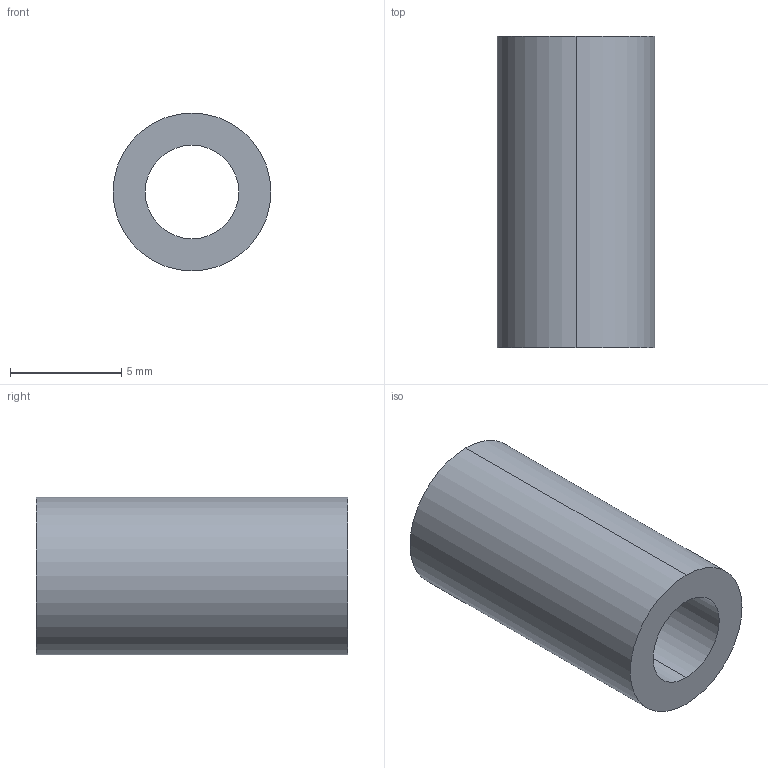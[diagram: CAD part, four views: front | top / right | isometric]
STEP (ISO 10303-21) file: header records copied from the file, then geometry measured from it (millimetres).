
FILE_DESCRIPTION(/* description */ ('(C) Elphel, Inc. 2013. Licensed under CERN OHL v.1.1 or later, see http://ohwr.org/cernohl'),/* implementation_level */ '2;1');
FILE_NAME(/* name */ '0353-26-08.stp',/* time_stamp */ '2013-05-15T23:34:36-06:00',/* author */ (''),/* organization */ ('Elphel, Inc'),/* preprocessor_version */ 'ST-DEVELOPER v14',/* originating_system */ 'VariCAD 2013-2.05; kernel version (20130303)',/* authorisation */ '');
FILE_SCHEMA (('CONFIG_CONTROL_DESIGN'));
Length unit declared in the file: millimetre
Products named in the file (2): 0353-26-08
Assembly tree (1 placements, depth 2):
  0353-26-08
    0353-26-08
Bounding box: 7.1 x 14 x 7.1 mm (x, y, z)
Volume: 360.3 mm3; surface area: 548.5 mm2
Topology: 1 solids, 1 shells, 6 faces, 12 edges, 8 vertices
Faces by surface type: cylinder 4, plane 2
Entity records: 268 total; most frequent: DIRECTION 40, CARTESIAN_POINT 30, ORIENTED_EDGE 24, AXIS2_PLACEMENT_3D 18, EDGE_CURVE 12, EDGE_LOOP 8, CIRCLE 8, VERTEX_POINT 8
